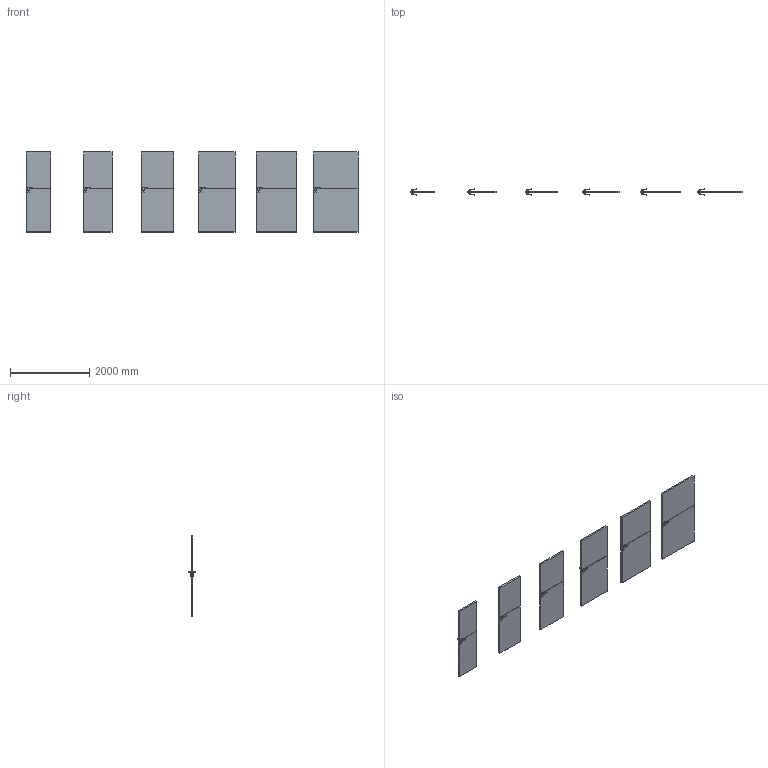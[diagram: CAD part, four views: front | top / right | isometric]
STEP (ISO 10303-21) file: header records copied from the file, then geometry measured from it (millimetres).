
FILE_DESCRIPTION(/* description */ (''),/* implementation_level */ '2;1');
FILE_NAME(/* name */ '049632_B_1-Skrzydło LINE model F.1_ polska norma _PN__ bezprzylgowe..stp',/* time_stamp */ '2024-03-19T13:16:45+01:00',/* author */ (''),/* organization */ (''),/* preprocessor_version */ 'ST-DEVELOPER v16',/* originating_system */ 'SIEMENS PLM Software NX 11.0',/* authorisation */ '');
FILE_SCHEMA (('AUTOMOTIVE_DESIGN { 1 0 10303 214 3 1 1 1 }'));
Length unit declared in the file: millimetre
Products named in the file (1): bkni0750A893l9v8
Bounding box: 8368 x 153.27 x 2017 mm (x, y, z)
Volume: 413446476.6 mm3; surface area: 22853987.5 mm2
Topology: 42 solids, 42 shells, 1176 faces, 2748 edges, 1536 vertices
Faces by surface type: plane 540, cylinder 276, bspline 192, sphere 168
Entity records: 38801 total; most frequent: CARTESIAN_POINT 13717, ORIENTED_EDGE 5160, DIRECTION 4934, EDGE_CURVE 2580, AXIS2_PLACEMENT_3D 1729, VERTEX_POINT 1536, LINE 1476, VECTOR 1476
